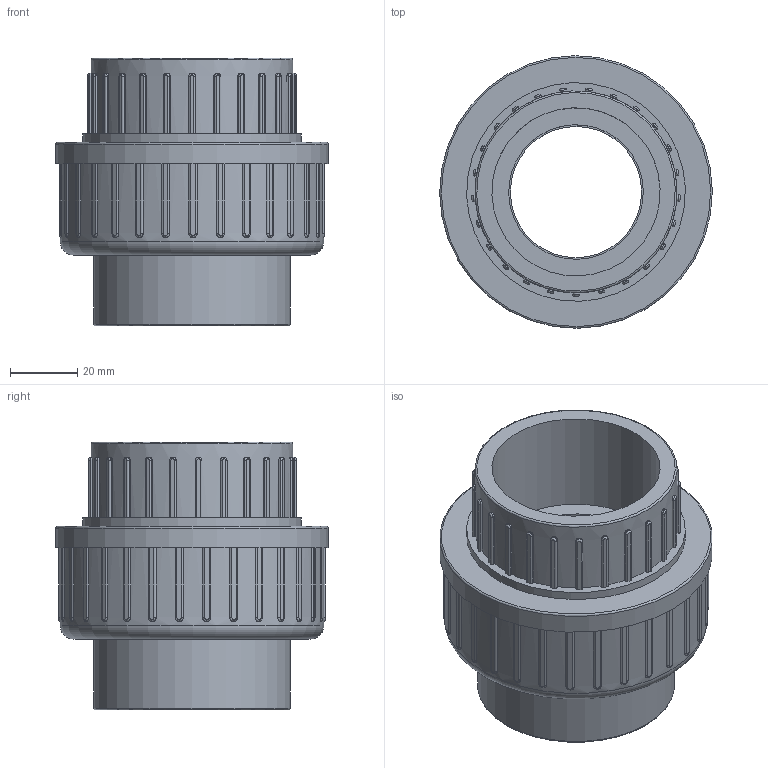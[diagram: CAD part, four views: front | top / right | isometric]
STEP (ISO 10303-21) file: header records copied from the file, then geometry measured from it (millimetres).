
FILE_DESCRIPTION(/* description */ (''),/* implementation_level */ '2;1');
FILE_NAME(/* name */ 'C:\Users\POLYPIPE\Desktop\DATASET INVENTOR\LIBRERIA EFFAST\3D_RACCORDI\RDR\3D_RDRBOD\3D_RDRBOD0500.stp',/* time_stamp */ '2018-01-22T10:24:56+01:00',/* author */ ('POLYPIPE'),/* organization */ (''),/* preprocessor_version */ 'ST-DEVELOPER v16.1',/* originating_system */ 'Autodesk Inventor 2016',/* authorisation */ '');
FILE_SCHEMA (('CONFIG_CONTROL_DESIGN'));
Length unit declared in the file: centimetre
Products named in the file (1): 3D_RDRBOD
Bounding box: 81 x 81 x 79.5 mm (x, y, z)
Volume: 147354.4 mm3; surface area: 42672.1 mm2
Topology: 1 solids, 2 shells, 353 faces, 995 edges, 654 vertices
Faces by surface type: cylinder 147, plane 117, bspline 85, torus 4
Full cylindrical faces by diameter (mm): 39 x1, 40 x1, 50 x2, 58.5 x1, 59.4 x1, 60 x1, 62 x1, 63.3 x1, 65 x1, 78.3 x1, 81 x1
Entity records: 14018 total; most frequent: CARTESIAN_POINT 4830, ORIENTED_EDGE 1952, DIRECTION 1725, EDGE_CURVE 976, VERTEX_POINT 651, AXIS2_PLACEMENT_3D 650, LINE 425, VECTOR 425
